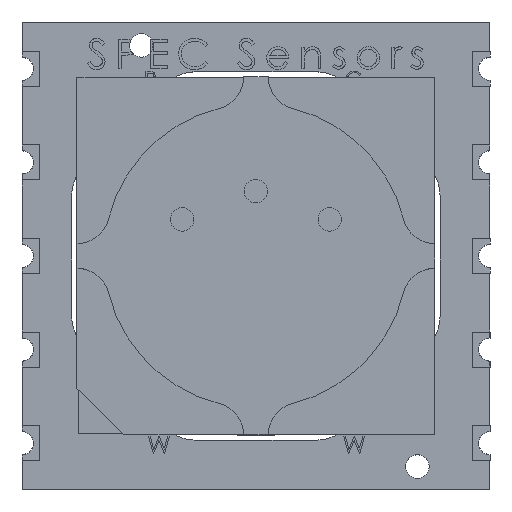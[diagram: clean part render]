
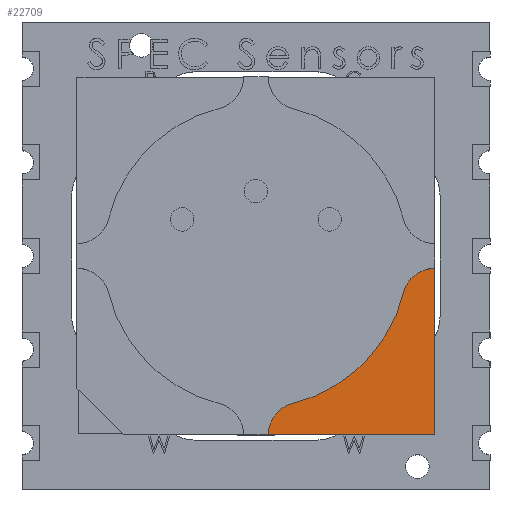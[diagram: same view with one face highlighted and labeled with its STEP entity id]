
A CAD part, top view. The second image highlights one B-rep face of the part: STEP entity #22709.
In plain terms, the highlighted planar face has unit normal (0, 0, 1).
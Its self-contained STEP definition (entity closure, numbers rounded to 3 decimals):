
#372 = EDGE_CURVE ( 'NONE', #9653, #1977, #16842, .T. ) ;
#526 = CARTESIAN_POINT ( 'NONE',  ( -10.786, 8.433, 0.389 ) ) ;
#551 = ORIENTED_EDGE ( 'NONE', *, *, #14303, .T. ) ;
#875 = CARTESIAN_POINT ( 'NONE',  ( -6.056, 13.162, 0.389 ) ) ;
#1201 = EDGE_CURVE ( 'NONE', #24929, #26436, #1930, .T. ) ;
#1930 = CIRCLE ( 'NONE', #13878, 1.385 ) ;
#1977 = VERTEX_POINT ( 'NONE', #526 ) ;
#2274 = EDGE_CURVE ( 'NONE', #9653, #6613, #19160, .T. ) ;
#3459 = DIRECTION ( 'NONE',  ( 0., 0., 1. ) ) ;
#4695 = ORIENTED_EDGE ( 'NONE', *, *, #2274, .T. ) ;
#5779 = CARTESIAN_POINT ( 'NONE',  ( -4.712, 22.389, 0.389 ) ) ;
#6119 = CARTESIAN_POINT ( 'NONE',  ( -10.45, 7.089, 0.389 ) ) ;
#6613 = VERTEX_POINT ( 'NONE', #22583 ) ;
#7424 = LINE ( 'NONE', #5779, #10305 ) ;
#8417 = DIRECTION ( 'NONE',  ( 1., 0., 0. ) ) ;
#8511 = DIRECTION ( 'NONE',  ( 0., 0., 1. ) ) ;
#9594 = CARTESIAN_POINT ( 'NONE',  ( -18.012, 7.089, 0.389 ) ) ;
#9653 = VERTEX_POINT ( 'NONE', #14723 ) ;
#10090 = CARTESIAN_POINT ( 'NONE',  ( 0., 0., 0.389 ) ) ;
#10305 = VECTOR ( 'NONE', #28228, 1000. ) ;
#11889 = DIRECTION ( 'NONE',  ( 1., 0., 0. ) ) ;
#12335 = CARTESIAN_POINT ( 'NONE',  ( -4.712, 12.826, 0.389 ) ) ;
#12701 = AXIS2_PLACEMENT_3D ( 'NONE', #6119, #15738, #8417 ) ;
#12853 = EDGE_LOOP ( 'NONE', ( #18096, #26659, #13906, #4695, #551 ) ) ;
#13357 = CIRCLE ( 'NONE', #19265, 6.5 ) ;
#13425 = CARTESIAN_POINT ( 'NONE',  ( -12.362, 14.739, 0.389 ) ) ;
#13878 = AXIS2_PLACEMENT_3D ( 'NONE', #12335, #28377, #14640 ) ;
#13906 = ORIENTED_EDGE ( 'NONE', *, *, #372, .F. ) ;
#14303 = EDGE_CURVE ( 'NONE', #6613, #26436, #7424, .T. ) ;
#14640 = DIRECTION ( 'NONE',  ( 1., 0., 0. ) ) ;
#14723 = CARTESIAN_POINT ( 'NONE',  ( -11.835, 7.089, 0.389 ) ) ;
#15738 = DIRECTION ( 'NONE',  ( 0., 0., -1. ) ) ;
#16842 = CIRCLE ( 'NONE', #12701, 1.385 ) ;
#18096 = ORIENTED_EDGE ( 'NONE', *, *, #1201, .F. ) ;
#19160 = LINE ( 'NONE', #9594, #27670 ) ;
#19265 = AXIS2_PLACEMENT_3D ( 'NONE', #13425, #8511, #24580 ) ;
#20101 = AXIS2_PLACEMENT_3D ( 'NONE', #10090, #3459, #26523 ) ;
#20542 = CARTESIAN_POINT ( 'NONE',  ( -4.712, 14.212, 0.389 ) ) ;
#22583 = CARTESIAN_POINT ( 'NONE',  ( -4.712, 7.089, 0.389 ) ) ;
#22709 = ADVANCED_FACE ( 'NONE', ( #29086 ), #24262, .T. ) ;
#24262 = PLANE ( 'NONE',  #20101 ) ;
#24580 = DIRECTION ( 'NONE',  ( 1., 0., 0. ) ) ;
#24929 = VERTEX_POINT ( 'NONE', #875 ) ;
#25183 = EDGE_CURVE ( 'NONE', #1977, #24929, #13357, .T. ) ;
#26436 = VERTEX_POINT ( 'NONE', #20542 ) ;
#26523 = DIRECTION ( 'NONE',  ( 1., 0., 0. ) ) ;
#26659 = ORIENTED_EDGE ( 'NONE', *, *, #25183, .F. ) ;
#27670 = VECTOR ( 'NONE', #11889, 1000. ) ;
#28228 = DIRECTION ( 'NONE',  ( 0., 1., 0. ) ) ;
#28377 = DIRECTION ( 'NONE',  ( 0., 0., -1. ) ) ;
#29086 = FACE_OUTER_BOUND ( 'NONE', #12853, .T. ) ;
